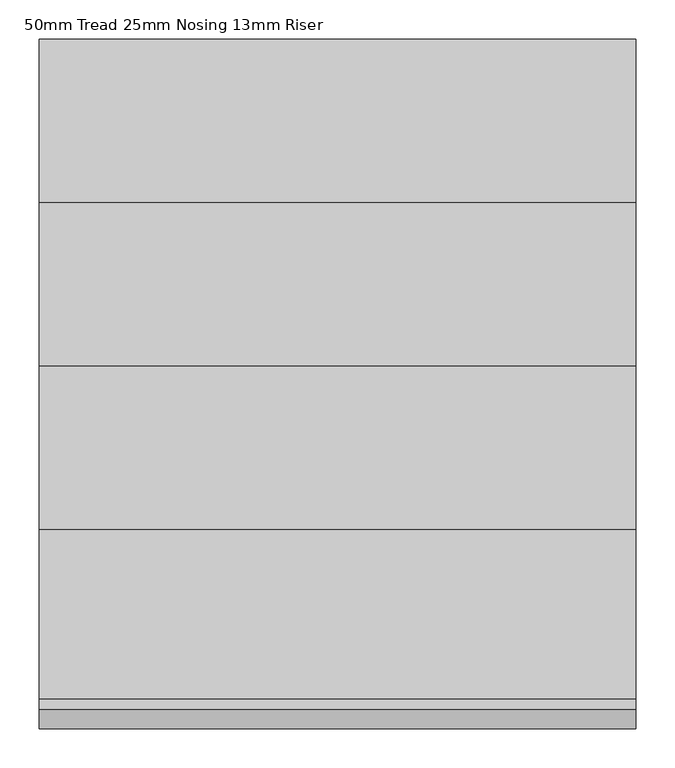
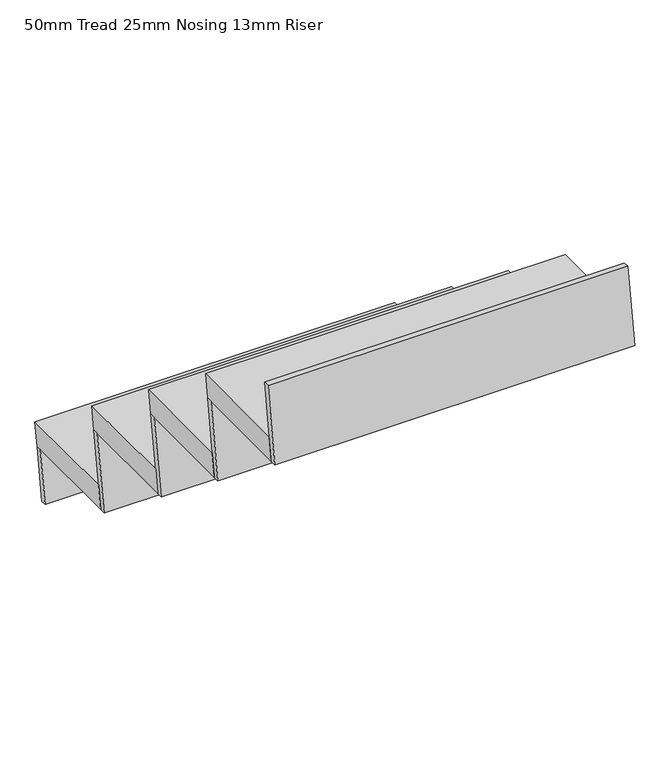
"""IFC4 building model written with IfcOpenShell, lengths in millimetres: stair flight geometry, 50mm Tread 25mm Nosing 13mm Riser."""

from ifc_helpers import new_model, si_unit, frame, origin, place, context, project, spatial, polyline, outline, extrude, source, transform, mapped, element, save


def stair_flight_50mm_tread_25mm_nosing_13mm_riser_6dbba7f1(model_context):
    return source(origin(), model_context, "Body", "SweptSolid", [
        extrude(outline(polyline([(8097.3270677, -650.24), (8331.0112782, -650.24), (8323.3218097, -700.24), (8089.6375992, -700.24), (8097.3270677, -650.24)])), frame((862.4, 0.0, 0.0), z_axis=(1.0, 0.0, 0.0), x_axis=(0.0, 1.0, 0.0)), (0.0, 0.0, 1.0), 762.0),
        extrude(outline(polyline([(8323.3218097, -700.24), (8306.0112782, -812.8), (8293.3643222, -812.8), (8310.6748537, -700.24), (8323.3218097, -700.24)])), frame((862.4, 0.0, 0.0), z_axis=(1.0, 0.0, 0.0), x_axis=(0.0, 1.0, 0.0)), (0.0, 0.0, 1.0), 762.0),
        extrude(outline(polyline([(8114.6375992, -537.68), (8089.6375992, -700.24), (8076.9906432, -700.24), (8101.9906432, -537.68), (8114.6375992, -537.68)])), frame((862.4, 0.0, 0.0), z_axis=(1.0, 0.0, 0.0), x_axis=(0.0, 1.0, 0.0)), (0.0, 0.0, 1.0), 762.0),
        extrude(outline(polyline([(7888.6428571, -487.68), (8122.3270677, -487.68), (8114.6375992, -537.68), (7880.9533886, -537.68), (7888.6428571, -487.68)])), frame((862.4, 0.0, 0.0), z_axis=(1.0, 0.0, 0.0), x_axis=(0.0, 1.0, 0.0)), (0.0, 0.0, 1.0), 762.0),
        extrude(outline(polyline([(7905.9533886, -375.12), (7880.9533886, -537.68), (7868.3064327, -537.68), (7893.3064327, -375.12), (7905.9533886, -375.12)])), frame((862.4, 0.0, 0.0), z_axis=(1.0, 0.0, 0.0), x_axis=(0.0, 1.0, 0.0)), (0.0, 0.0, 1.0), 762.0),
        extrude(outline(polyline([(7679.9586466, -325.12), (7913.6428571, -325.12), (7905.9533886, -375.12), (7672.2691781, -375.12), (7679.9586466, -325.12)])), frame((862.4, 0.0, 0.0), z_axis=(1.0, 0.0, 0.0), x_axis=(0.0, 1.0, 0.0)), (0.0, 0.0, 1.0), 762.0),
        extrude(outline(polyline([(7697.2691781, -212.56), (7672.2691781, -375.12), (7659.6222221, -375.12), (7684.6222221, -212.56), (7697.2691781, -212.56)])), frame((862.4, 0.0, 0.0), z_axis=(1.0, 0.0, 0.0), x_axis=(0.0, 1.0, 0.0)), (0.0, 0.0, 1.0), 762.0),
        extrude(outline(polyline([(7488.5849676, -50.0), (7463.5849676, -212.56), (7450.9380116, -212.56), (7475.9380116, -50.0), (7488.5849676, -50.0)])), frame((862.4, 0.0, 0.0), z_axis=(1.0, 0.0, 0.0), x_axis=(0.0, 1.0, 0.0)), (0.0, 0.0, 1.0), 762.0),
        extrude(outline(polyline([(7471.2744361, -162.56), (7704.9586466, -162.56), (7697.2691781, -212.56), (7463.5849676, -212.56), (7471.2744361, -162.56)])), frame((862.4, 0.0, 0.0), z_axis=(1.0, 0.0, 0.0), x_axis=(0.0, 1.0, 0.0)), (0.0, 0.0, 1.0), 762.0),
    ])


if __name__ == "__main__":
    model = new_model("IFC4")
    model_context = context("Model", 3, world=origin())
    ifc_project = project(units=[si_unit("LENGTHUNIT", "METRE", prefix="MILLI")], contexts=[model_context])
    site = spatial("IfcSite", under=ifc_project)
    building = spatial("IfcBuilding", under=site)
    placement = place(None, origin())
    stair_flight_50mm_tread_25mm_nosing_13mm_riser_shape = stair_flight_50mm_tread_25mm_nosing_13mm_riser_6dbba7f1(model_context)
    element("IfcStairFlight", 1, ObjectType="50mm Tread 25mm Nosing 13mm Riser", at=placement, inside=building, context=model_context, shape_type="MappedRepresentation", body=[
        mapped(stair_flight_50mm_tread_25mm_nosing_13mm_riser_shape, transform((0.0, 0.0, 0.0), x_axis=(1.0, 0.0, 0.0), y_axis=(0.0, 1.0, 0.0), z_axis=(0.0, 0.0, 1.0))),
    ])
    save(model, "model.ifc")
